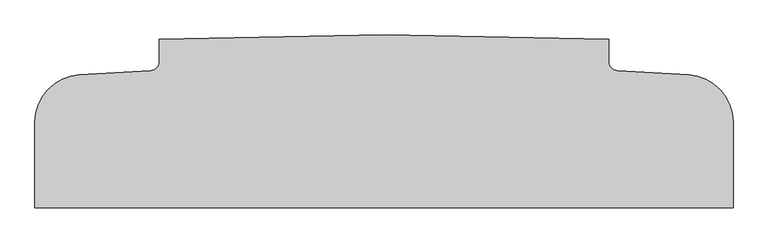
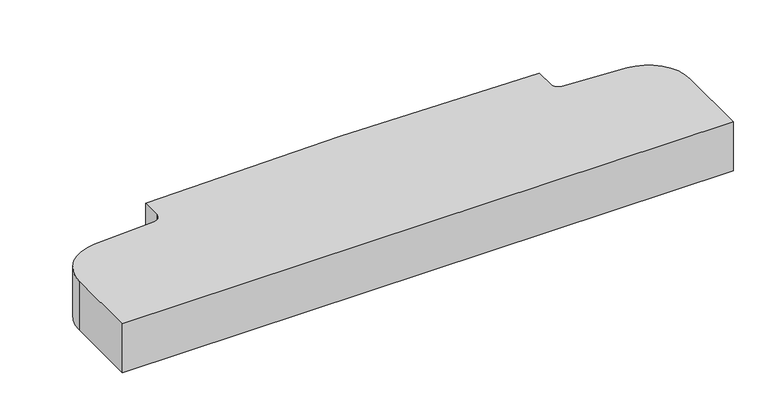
"""IFC4 building model written with IfcOpenShell, lengths in millimetres: proxy geometry, Diaphragm-IntCenter.sat."""

from ifc_helpers import new_model, si_unit, point, frame, frame_2d, origin, place, context, project, spatial, polyline, circle_curve, trimmed, segment, composite_curve, outline, extrude, source, transform, mapped, element, save


def generic_models_9be2dbe9(model_context):
    return source(origin(), model_context, "Body", "SweptSolid", [
        extrude(outline(composite_curve([segment(trimmed(circle_curve(frame_2d((-3022.6, 1002.3355791)), 203.2), [point((-3225.8, 1002.3355791))], [point((-3034.6738676, 1205.1765555))], False, "CARTESIAN"), True, "CONTINUOUS"), segment(polyline([(-3034.6738676, 1205.1765555), (-2728.2361498, 1223.4168958)]), True, "CONTINUOUS"), segment(trimmed(circle_curve(frame_2d((-2730.5, 1261.4495789)), 38.1), [point((-2728.2361498, 1223.4168958))], [point((-2692.4, 1261.4495789))], True, "CARTESIAN"), True, "CONTINUOUS"), segment(polyline([(-2692.4, 1261.4495789), (-2692.4, 1357.884), (-1727.2, 1377.188), (-762.0, 1357.884), (-762.0, 1261.4495789)]), True, "CONTINUOUS"), segment(trimmed(circle_curve(frame_2d((-723.9, 1261.4495789)), 38.1), [point((-762.0, 1261.4495789))], [point((-726.1638502, 1223.4168958))], True, "CARTESIAN"), True, "CONTINUOUS"), segment(polyline([(-726.1638502, 1223.4168958), (-419.7261324, 1205.1765555)]), True, "CONTINUOUS"), segment(trimmed(circle_curve(frame_2d((-431.8, 1002.3355791)), 203.2), [point((-419.7261324, 1205.1765555))], [point((-228.6, 1002.3355791))], False, "CARTESIAN"), True, "CONTINUOUS"), segment(polyline([(-228.6, 1002.3355791), (-228.6, 635.0), (-3225.8, 635.0), (-3225.8, 1002.3355791)]), True, "CONTINUOUS")], self_intersect=False)), frame((0.0, 0.0, -127.0), z_axis=(0.0, 0.0, 1.0), x_axis=(1.0, 0.0, 0.0)), (0.0, 0.0, 1.0), 254.0),
    ])


if __name__ == "__main__":
    model = new_model("IFC4")
    model_context = context("Model", 3, world=origin())
    ifc_project = project(units=[si_unit("LENGTHUNIT", "METRE", prefix="MILLI")], contexts=[model_context])
    site = spatial("IfcSite", under=ifc_project)
    building = spatial("IfcBuilding", under=site)
    placement = place(None, origin())
    generic_models_shape = generic_models_9be2dbe9(model_context)
    element("IfcBuildingElementProxy", 1, Name="Diaphragm-IntCenter.sat", ObjectType="Diaphragm-IntCenter.sat", at=placement, inside=building, context=model_context, shape_type="MappedRepresentation", body=[
        mapped(generic_models_shape, transform((0.0, 0.0, 0.0), x_axis=(1.0, 0.0, 0.0), y_axis=(0.0, 1.0, 0.0), z_axis=(0.0, 0.0, 1.0))),
    ])
    save(model, "model.ifc")
